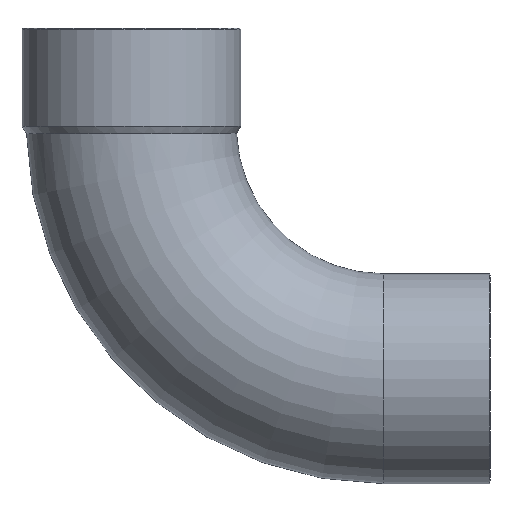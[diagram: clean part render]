
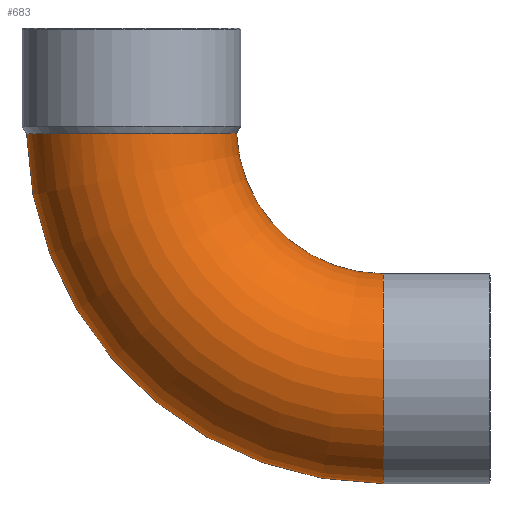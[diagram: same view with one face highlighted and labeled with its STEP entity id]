
A CAD part, front view. The second image highlights one B-rep face of the part: STEP entity #683.
In plain terms, the highlighted toroidal (fillet/blend) face has major radius 91.32 mm and minor radius 38.05 mm.
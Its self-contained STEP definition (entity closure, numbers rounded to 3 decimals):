
#49=CARTESIAN_POINT('',(-107.31,0.,-2.564));
#50=VERTEX_POINT('',#49);
#51=CARTESIAN_POINT('',(22.035,0.,-129.37));
#52=VERTEX_POINT('',#51);
#53=CARTESIAN_POINT('',(22.035,0.,0.0));
#54=DIRECTION('',(0.0,-1.0,0.0));
#55=DIRECTION('',(0.0,0.0,-1.0));
#56=AXIS2_PLACEMENT_3D('',#53,#54,#55);
#57=CIRCLE('',#56,129.37);
#58=EDGE_CURVE('',#50,#52,#57,.T.);
#60=CARTESIAN_POINT('',(-31.18,0.,-2.424));
#61=VERTEX_POINT('',#60);
#85=CARTESIAN_POINT('',(22.035,0.,-53.27));
#86=VERTEX_POINT('',#85);
#87=CARTESIAN_POINT('',(22.035,0.,0.0));
#88=DIRECTION('',(0.0,1.0,0.0));
#89=DIRECTION('',(0.0,0.0,-1.0));
#90=AXIS2_PLACEMENT_3D('',#87,#88,#89);
#91=CIRCLE('',#90,53.27);
#92=EDGE_CURVE('',#86,#61,#91,.T.);
#212=CARTESIAN_POINT('',(-31.18,0.,-2.424));
#213=CARTESIAN_POINT('',(-31.18,-0.331,-2.424));
#214=CARTESIAN_POINT('',(-31.184,-0.662,-2.424));
#215=CARTESIAN_POINT('',(-31.322,-5.944,-2.425));
#216=CARTESIAN_POINT('',(-32.418,-10.823,-2.429));
#217=CARTESIAN_POINT('',(-36.42,-19.889,-2.444));
#218=CARTESIAN_POINT('',(-39.289,-23.99,-2.454));
#219=CARTESIAN_POINT('',(-46.437,-30.861,-2.474));
#220=CARTESIAN_POINT('',(-50.65,-33.566,-2.485));
#221=CARTESIAN_POINT('',(-59.873,-37.209,-2.504));
#222=CARTESIAN_POINT('',(-64.796,-38.112,-2.513));
#223=CARTESIAN_POINT('',(-74.71,-37.981,-2.529));
#224=CARTESIAN_POINT('',(-79.606,-36.948,-2.535));
#225=CARTESIAN_POINT('',(-88.725,-33.065,-2.546));
#226=CARTESIAN_POINT('',(-92.862,-30.252,-2.55));
#227=CARTESIAN_POINT('',(-99.822,-23.199,-2.557));
#228=CARTESIAN_POINT('',(-102.58,-19.027,-2.56));
#229=CARTESIAN_POINT('',(-106.342,-9.86,-2.563));
#230=CARTESIAN_POINT('',(-107.31,-4.954,-2.564));
#231=CARTESIAN_POINT('',(-107.31,0.,-2.564));
#232=B_SPLINE_CURVE_WITH_KNOTS('',3,(#212,#213,#214,#215,#216,#217,#218,#219,#220,#221,#222,#223,#224,#225,#226,#227,#228,#229,#230,#231),.UNSPECIFIED.,.F.,.U.,(4,2,2,2,2,2,2,2,2,4),(-11.993,-11.894,-10.408,-8.921,-7.433,-5.946,-4.459,-2.972,-1.486,0.0),.UNSPECIFIED.);
#233=EDGE_CURVE('',#61,#50,#232,.T.);
#539=CARTESIAN_POINT('',(22.035,0.,-91.32));
#540=DIRECTION('',(-1.0,0.0,0.0));
#541=DIRECTION('',(0.0,0.0,-1.0));
#542=AXIS2_PLACEMENT_3D('',#539,#540,#541);
#543=CIRCLE('',#542,38.05);
#544=EDGE_CURVE('',#52,#86,#543,.T.);
#672=CARTESIAN_POINT('',(22.035,0.,0.0));
#673=DIRECTION('',(0.0,-1.0,0.0));
#674=DIRECTION('',(0.0,0.0,-1.0));
#675=AXIS2_PLACEMENT_3D('',#672,#673,#674);
#676=TOROIDAL_SURFACE('',#675,91.32,38.05);
#677=ORIENTED_EDGE('',*,*,#58,.T.);
#678=ORIENTED_EDGE('',*,*,#544,.T.);
#679=ORIENTED_EDGE('',*,*,#92,.T.);
#680=ORIENTED_EDGE('',*,*,#233,.T.);
#681=EDGE_LOOP('',(#677,#678,#679,#680));
#682=FACE_OUTER_BOUND('',#681,.T.);
#683=ADVANCED_FACE('',(#682),#676,.T.);
